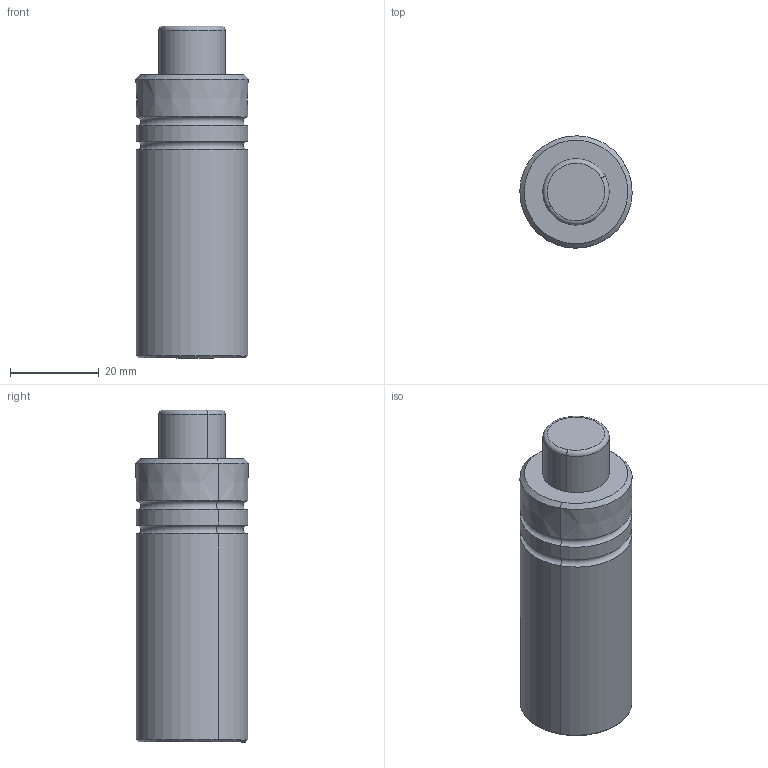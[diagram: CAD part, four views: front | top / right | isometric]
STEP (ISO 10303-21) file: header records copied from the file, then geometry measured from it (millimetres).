
FILE_DESCRIPTION(('CATIA V5 STEP Exchange'),'2;1');
FILE_NAME('W:\CATALOGO GENERAL 2018\FICHEROS CAD\003-TPH\TPH 320\TPH320x10.stp','2024-05-21T13:11:39+00:00',('none'),('none'),'CATIA Version 5 Release 17 (IN-10)','CATIA V5 STEP AP203','none');
FILE_SCHEMA(('CONFIG_CONTROL_DESIGN'));
Length unit declared in the file: millimetre
Products named in the file (1): TPH320
Bounding box: 25.38 x 25.38 x 75 mm (x, y, z)
Volume: 33460.5 mm3; surface area: 6745.6 mm2
Topology: 1 solids, 1 shells, 26 faces, 50 edges, 28 vertices
Faces by surface type: cylinder 8, cone 8, torus 6, plane 4
Entity records: 613 total; most frequent: ORIENTED_EDGE 100, CARTESIAN_POINT 94, DIRECTION 80, AXIS2_PLACEMENT_3D 50, EDGE_CURVE 50, CIRCLE 34, EDGE_LOOP 28, VERTEX_POINT 28
